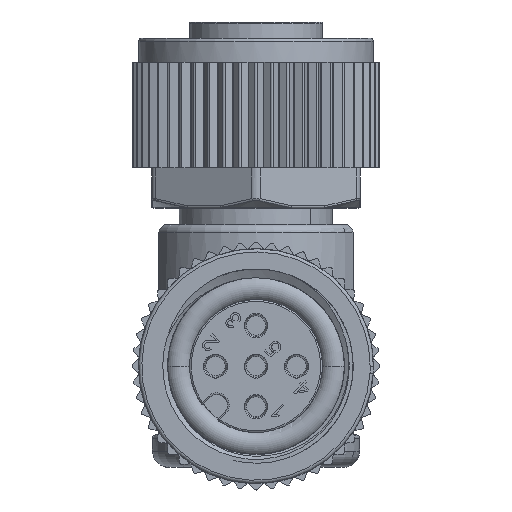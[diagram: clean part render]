
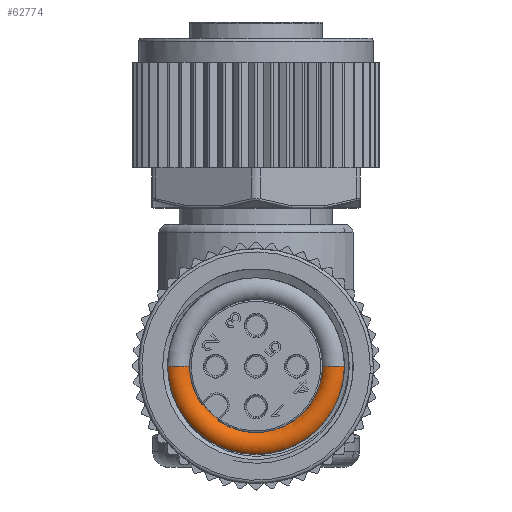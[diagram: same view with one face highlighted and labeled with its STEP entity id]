
A CAD part, left-side view. The second image highlights one B-rep face of the part: STEP entity #62774.
In plain terms, the highlighted toroidal (fillet/blend) face has major radius 4.8 mm and minor radius 0.8 mm.
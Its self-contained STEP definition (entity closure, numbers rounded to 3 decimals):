
#576=CARTESIAN_POINT('',(7.713,0.,0.));
#577=DIRECTION('',(-1.,0.,0.));
#578=DIRECTION('',(0.,0.562,-0.827));
#579=AXIS2_PLACEMENT_3D('',#576,#577,#578);
#586=CARTESIAN_POINT('',(7.713,0.,0.));
#587=DIRECTION('',(-1.,0.,0.));
#588=DIRECTION('',(0.,1.,0.));
#589=AXIS2_PLACEMENT_3D('',#586,#587,#588);
#591=CARTESIAN_POINT('',(8.1,-4.8,0.001));
#592=DIRECTION('',(0.,0.,-1.));
#593=DIRECTION('',(-0.568,-0.823,0.));
#594=AXIS2_PLACEMENT_3D('',#591,#592,#593);
#596=CARTESIAN_POINT('',(8.1,4.8,-0.001));
#597=DIRECTION('',(0.,0.,-1.));
#598=DIRECTION('',(-0.484,-0.875,0.));
#599=AXIS2_PLACEMENT_3D('',#596,#597,#598);
#601=CARTESIAN_POINT('',(8.,3.257,-2.333));
#602=CARTESIAN_POINT('',(7.991,3.258,-2.334));
#603=CARTESIAN_POINT('',(7.974,3.26,-2.335));
#604=CARTESIAN_POINT('',(7.949,3.264,-2.337));
#605=CARTESIAN_POINT('',(7.926,3.268,-2.339));
#606=CARTESIAN_POINT('',(7.903,3.273,-2.341));
#607=CARTESIAN_POINT('',(7.882,3.279,-2.343));
#608=CARTESIAN_POINT('',(7.863,3.285,-2.345));
#609=CARTESIAN_POINT('',(7.846,3.29,-2.346));
#610=CARTESIAN_POINT('',(7.83,3.296,-2.347));
#611=CARTESIAN_POINT('',(7.816,3.302,-2.348));
#612=CARTESIAN_POINT('',(7.804,3.308,-2.348));
#613=CARTESIAN_POINT('',(7.793,3.314,-2.348));
#614=CARTESIAN_POINT('',(7.783,3.32,-2.347));
#615=CARTESIAN_POINT('',(7.774,3.325,-2.347));
#616=CARTESIAN_POINT('',(7.766,3.33,-2.346));
#617=CARTESIAN_POINT('',(7.758,3.335,-2.344));
#618=CARTESIAN_POINT('',(7.752,3.34,-2.343));
#619=CARTESIAN_POINT('',(7.746,3.344,-2.341));
#620=CARTESIAN_POINT('',(7.741,3.348,-2.34));
#621=CARTESIAN_POINT('',(7.737,3.352,-2.338));
#622=CARTESIAN_POINT('',(7.733,3.356,-2.336));
#623=CARTESIAN_POINT('',(7.73,3.36,-2.334));
#624=CARTESIAN_POINT('',(7.727,3.363,-2.332));
#625=CARTESIAN_POINT('',(7.724,3.367,-2.329));
#626=CARTESIAN_POINT('',(7.722,3.37,-2.327));
#627=CARTESIAN_POINT('',(7.72,3.373,-2.325));
#628=CARTESIAN_POINT('',(7.718,3.375,-2.322));
#629=CARTESIAN_POINT('',(7.716,3.378,-2.32));
#630=CARTESIAN_POINT('',(7.715,3.381,-2.317));
#631=CARTESIAN_POINT('',(7.714,3.383,-2.315));
#632=CARTESIAN_POINT('',(7.714,3.385,-2.312));
#633=CARTESIAN_POINT('',(7.713,3.387,-2.31));
#634=CARTESIAN_POINT('',(7.713,3.389,-2.307));
#635=CARTESIAN_POINT('',(7.713,3.391,-2.305));
#636=CARTESIAN_POINT('',(7.713,3.391,-2.304));
#685=CARTESIAN_POINT('',(7.713,2.304,-3.391));
#686=CARTESIAN_POINT('',(7.713,2.305,-3.391));
#687=CARTESIAN_POINT('',(7.713,2.307,-3.389));
#688=CARTESIAN_POINT('',(7.713,2.31,-3.387));
#689=CARTESIAN_POINT('',(7.714,2.312,-3.385));
#690=CARTESIAN_POINT('',(7.714,2.315,-3.383));
#691=CARTESIAN_POINT('',(7.715,2.317,-3.381));
#692=CARTESIAN_POINT('',(7.716,2.32,-3.378));
#693=CARTESIAN_POINT('',(7.718,2.322,-3.375));
#694=CARTESIAN_POINT('',(7.72,2.325,-3.373));
#695=CARTESIAN_POINT('',(7.722,2.327,-3.37));
#696=CARTESIAN_POINT('',(7.724,2.329,-3.367));
#697=CARTESIAN_POINT('',(7.727,2.332,-3.363));
#698=CARTESIAN_POINT('',(7.73,2.334,-3.36));
#699=CARTESIAN_POINT('',(7.733,2.336,-3.356));
#700=CARTESIAN_POINT('',(7.737,2.338,-3.352));
#701=CARTESIAN_POINT('',(7.741,2.34,-3.348));
#702=CARTESIAN_POINT('',(7.746,2.341,-3.344));
#703=CARTESIAN_POINT('',(7.752,2.343,-3.34));
#704=CARTESIAN_POINT('',(7.758,2.344,-3.335));
#705=CARTESIAN_POINT('',(7.766,2.346,-3.33));
#706=CARTESIAN_POINT('',(7.774,2.347,-3.325));
#707=CARTESIAN_POINT('',(7.783,2.347,-3.32));
#708=CARTESIAN_POINT('',(7.793,2.348,-3.314));
#709=CARTESIAN_POINT('',(7.804,2.348,-3.308));
#710=CARTESIAN_POINT('',(7.816,2.348,-3.302));
#711=CARTESIAN_POINT('',(7.83,2.347,-3.296));
#712=CARTESIAN_POINT('',(7.846,2.346,-3.29));
#713=CARTESIAN_POINT('',(7.863,2.345,-3.285));
#714=CARTESIAN_POINT('',(7.882,2.343,-3.279));
#715=CARTESIAN_POINT('',(7.903,2.341,-3.273));
#716=CARTESIAN_POINT('',(7.926,2.339,-3.268));
#717=CARTESIAN_POINT('',(7.949,2.337,-3.264));
#718=CARTESIAN_POINT('',(7.974,2.335,-3.26));
#719=CARTESIAN_POINT('',(7.991,2.334,-3.258));
#720=CARTESIAN_POINT('',(8.,2.333,-3.257));
#726=CARTESIAN_POINT('',(8.,0.,0.));
#727=DIRECTION('',(-1.,0.,0.));
#728=DIRECTION('',(0.,0.813,-0.582));
#729=AXIS2_PLACEMENT_3D('',#726,#727,#728);
#833=CARTESIAN_POINT('',(7.646,0.,0.));
#834=DIRECTION('',(1.,0.,0.));
#835=DIRECTION('',(0.,-1.,0.));
#836=AXIS2_PLACEMENT_3D('',#833,#834,#835);
#1063=CARTESIAN_POINT('',(7.646,0.,0.));
#1064=DIRECTION('',(1.,0.,0.));
#1065=DIRECTION('',(0.,0.,-1.));
#1066=AXIS2_PLACEMENT_3D('',#1063,#1064,#1065);
#59982=CARTESIAN_POINT('',(7.713,4.1,
-0.001));
#59983=CARTESIAN_POINT('',(7.713,3.391,
-2.304));
#59984=VERTEX_POINT('',#59982);
#59985=VERTEX_POINT('',#59983);
#59992=CARTESIAN_POINT('',(7.713,2.304,
-3.391));
#59993=CARTESIAN_POINT('',(7.713,-4.1,
0.001));
#59994=VERTEX_POINT('',#59992);
#59995=VERTEX_POINT('',#59993);
#59998=VERTEX_POINT('',#720);
#59999=VERTEX_POINT('',#601);
#60004=CARTESIAN_POINT('',(7.646,-5.458,
0.001));
#60005=CARTESIAN_POINT('',(7.646,0.,-5.459));
#60006=VERTEX_POINT('',#60004);
#60007=VERTEX_POINT('',#60005);
#60014=CARTESIAN_POINT('',(7.646,5.458,
-0.001));
#60015=VERTEX_POINT('',#60014);
#62753=CARTESIAN_POINT('',(8.1,0.,0.));
#62754=DIRECTION('',(-1.,0.,0.));
#62755=DIRECTION('',(0.,-1.,0.));
#62756=AXIS2_PLACEMENT_3D('',#62753,#62754,#62755);
#62757=TOROIDAL_SURFACE('',#62756,4.8,0.8);
#62758=ORIENTED_EDGE('',*,*,#62737,.F.);
#62759=ORIENTED_EDGE('',*,*,#62717,.T.);
#62761=ORIENTED_EDGE('',*,*,#62760,.F.);
#62763=ORIENTED_EDGE('',*,*,#62762,.T.);
#62765=ORIENTED_EDGE('',*,*,#62764,.F.);
#62766=ORIENTED_EDGE('',*,*,#62710,.T.);
#62767=ORIENTED_EDGE('',*,*,#62734,.F.);
#62769=ORIENTED_EDGE('',*,*,#62768,.T.);
#62771=ORIENTED_EDGE('',*,*,#62770,.T.);
#62772=EDGE_LOOP('',(#62758,#62759,#62761,#62763,#62765,#62766,#62767,#62769,
#62771));
#62773=FACE_OUTER_BOUND('',#62772,.F.);
#62774=ADVANCED_FACE('',(#62773),#62757,.T.);
#580=CIRCLE('',#579,4.1);
#590=CIRCLE('',#589,4.1);
#595=CIRCLE('',#594,0.8);
#600=CIRCLE('',#599,0.8);
#637=B_SPLINE_CURVE_WITH_KNOTS('',3,(#601,#602,#603,#604,#605,#606,#607,#608,
#609,#610,#611,#612,#613,#614,#615,#616,#617,#618,#619,#620,#621,#622,#623,#624,
#625,#626,#627,#628,#629,#630,#631,#632,#633,#634,#635,#636),.UNSPECIFIED.,.F.,
.F.,(4,1,1,1,1,1,1,1,1,1,1,1,1,1,1,1,1,1,1,1,1,1,1,1,1,1,1,1,1,1,1,1,1,4),(0.,
0.03,0.061,0.091,0.121,
0.152,0.182,0.212,0.242,
0.273,0.303,0.333,0.364,
0.394,0.424,0.455,0.485,
0.515,0.545,0.576,0.606,
0.636,0.667,0.697,0.727,
0.758,0.788,0.818,0.848,
0.879,0.909,0.939,0.97,1.),
.UNSPECIFIED.);
#721=B_SPLINE_CURVE_WITH_KNOTS('',3,(#685,#686,#687,#688,#689,#690,#691,#692,
#693,#694,#695,#696,#697,#698,#699,#700,#701,#702,#703,#704,#705,#706,#707,#708,
#709,#710,#711,#712,#713,#714,#715,#716,#717,#718,#719,#720),.UNSPECIFIED.,.F.,
.F.,(4,1,1,1,1,1,1,1,1,1,1,1,1,1,1,1,1,1,1,1,1,1,1,1,1,1,1,1,1,1,1,1,1,4),(0.,
0.03,0.061,0.091,0.121,
0.152,0.182,0.212,0.242,
0.273,0.303,0.333,0.364,
0.394,0.424,0.455,0.485,
0.515,0.545,0.576,0.606,
0.636,0.667,0.697,0.727,
0.758,0.788,0.818,0.848,
0.879,0.909,0.939,0.97,1.),
.UNSPECIFIED.);
#730=CIRCLE('',#729,4.006);
#837=CIRCLE('',#836,5.459);
#1067=CIRCLE('',#1066,5.459);
#62710=EDGE_CURVE('',#59994,#59995,#580,.T.);
#62717=EDGE_CURVE('',#59984,#59985,#590,.T.);
#62734=EDGE_CURVE('',#60006,#59995,#595,.T.);
#62737=EDGE_CURVE('',#59984,#60015,#600,.T.);
#62760=EDGE_CURVE('',#59999,#59985,#637,.T.);
#62762=EDGE_CURVE('',#59999,#59998,#730,.T.);
#62764=EDGE_CURVE('',#59994,#59998,#721,.T.);
#62768=EDGE_CURVE('',#60006,#60007,#837,.T.);
#62770=EDGE_CURVE('',#60007,#60015,#1067,.T.);
